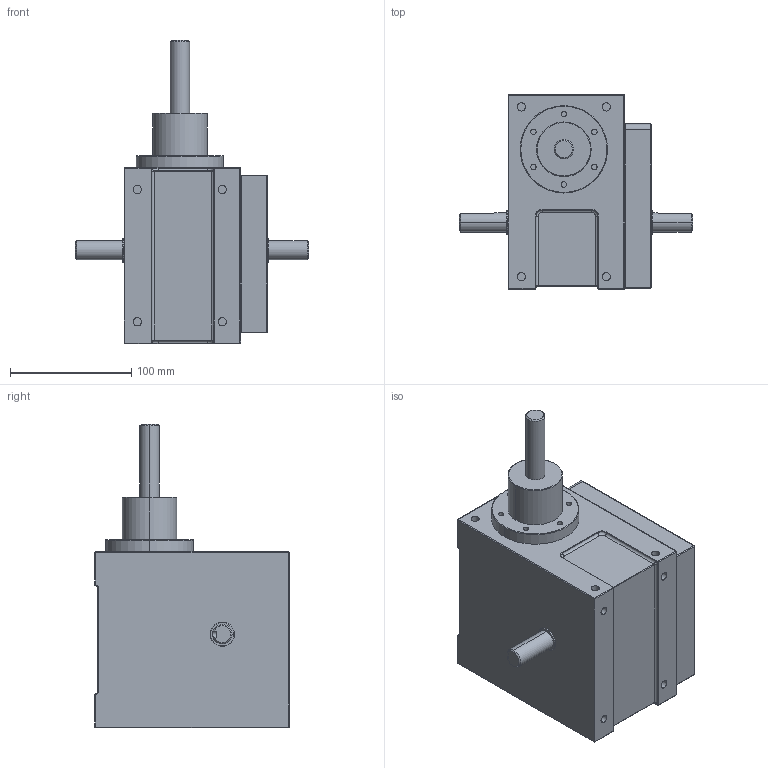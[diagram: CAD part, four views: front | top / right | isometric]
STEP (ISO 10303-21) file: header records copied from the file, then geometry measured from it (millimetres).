
FILE_DESCRIPTION((''),'2;1');
FILE_NAME('6FN','2015-01-15T',('松仔'),(''),'PRO/ENGINEER BY PARAMETRIC TECHNOLOGY CORPORATION, 2013430','PRO/ENGINEER BY PARAMETRIC TECHNOLOGY CORPORATION, 2013430','');
FILE_SCHEMA(('CONFIG_CONTROL_DESIGN'));
Length unit declared in the file: millimetre
Products named in the file (1): 6FN
Bounding box: 192 x 160 x 250 mm (x, y, z)
Volume: 2667813.7 mm3; surface area: 137620.2 mm2
Topology: 1 solids, 1 shells, 250 faces, 524 edges, 315 vertices
Faces by surface type: cylinder 133, plane 66, torus 30, sphere 17, cone 4
Entity records: 6764 total; most frequent: DIRECTION 1321, CARTESIAN_POINT 1147, ORIENTED_EDGE 1048, AXIS2_PLACEMENT_3D 560, EDGE_CURVE 524, VERTEX_POINT 315, CIRCLE 310, EDGE_LOOP 289
